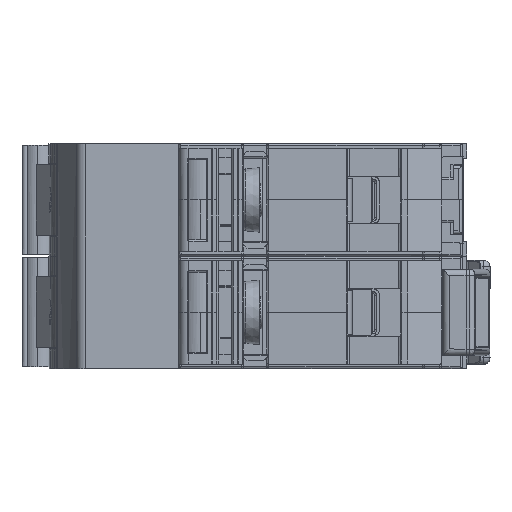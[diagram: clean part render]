
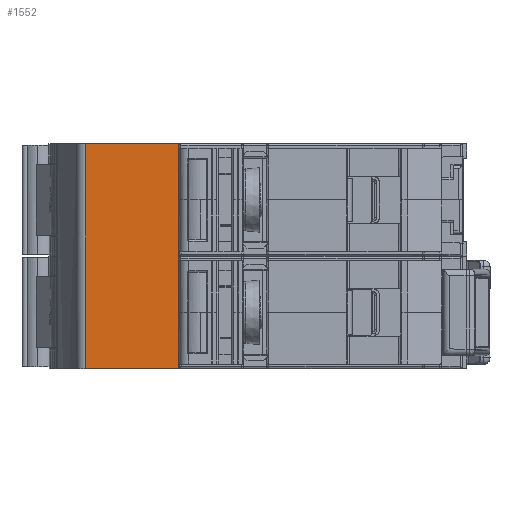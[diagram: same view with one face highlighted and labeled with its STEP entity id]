
A CAD part, left-side view. The second image highlights one B-rep face of the part: STEP entity #1552.
In plain terms, the highlighted planar face has unit normal (-1, 0, 0).
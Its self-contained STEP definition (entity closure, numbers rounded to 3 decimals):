
#1552 = ADVANCED_FACE ( 'NONE', ( #87215 ), #87128, .F. ) ;
#31891 = LINE ( 'NONE', #31892, #79834 ) ;
#31892 = CARTESIAN_POINT ( 'NONE',  ( -29.368, 17.312, 26.277 ) ) ;
#31894 = DIRECTION ( 'NONE',  ( 0., -1., 0. ) ) ;
#32510 = LINE ( 'NONE', #32511, #79985 ) ;
#32511 = CARTESIAN_POINT ( 'NONE',  ( -29.368, 29.148, -7.32 ) ) ;
#32516 = LINE ( 'NONE', #49651, #79961 ) ;
#32520 = DIRECTION ( 'NONE',  ( 0., 0., 1. ) ) ;
#32521 = LINE ( 'NONE', #32523, #79992 ) ;
#32523 = CARTESIAN_POINT ( 'NONE',  ( -29.368, 29.148, -8.775 ) ) ;
#49649 = DIRECTION ( 'NONE',  ( 0., -1., 0. ) ) ;
#49651 = CARTESIAN_POINT ( 'NONE',  ( -29.368, 14.621, 7.297 ) ) ;
#49655 = DIRECTION ( 'NONE',  ( 0., 0., 1. ) ) ;
#52582 = VERTEX_POINT ( 'NONE', #129784 ) ;
#52586 = VERTEX_POINT ( 'NONE', #129786 ) ;
#52636 = VERTEX_POINT ( 'NONE', #129816 ) ;
#52644 = VERTEX_POINT ( 'NONE', #129822 ) ;
#72854 = AXIS2_PLACEMENT_3D ( 'NONE', #87284, #87288, #87292 ) ;
#79834 = VECTOR ( 'NONE', #31894, 1000. ) ;
#79961 = VECTOR ( 'NONE', #49655, 1000. ) ;
#79985 = VECTOR ( 'NONE', #32520, 1000. ) ;
#79992 = VECTOR ( 'NONE', #49649, 1000. ) ;
#87128 = PLANE ( 'NONE',  #72854 ) ;
#87215 = FACE_OUTER_BOUND ( 'NONE', #145144, .T. ) ;
#87284 = CARTESIAN_POINT ( 'NONE',  ( -29.368, 17.312, -7.32 ) ) ;
#87288 = DIRECTION ( 'NONE',  ( 1., 0., 0. ) ) ;
#87292 = DIRECTION ( 'NONE',  ( 0., 0., -1. ) ) ;
#118189 = EDGE_CURVE ( 'NONE', #52582, #52586, #31891, .T. ) ;
#118365 = EDGE_CURVE ( 'NONE', #52636, #52582, #32510, .T. ) ;
#118366 = EDGE_CURVE ( 'NONE', #52636, #52644, #32521, .T. ) ;
#118368 = EDGE_CURVE ( 'NONE', #52644, #52586, #32516, .T. ) ;
#129784 = CARTESIAN_POINT ( 'NONE',  ( -29.368, 29.148, 26.277 ) ) ;
#129786 = CARTESIAN_POINT ( 'NONE',  ( -29.368, 14.621, 26.277 ) ) ;
#129816 = CARTESIAN_POINT ( 'NONE',  ( -29.368, 29.148, -8.775 ) ) ;
#129822 = CARTESIAN_POINT ( 'NONE',  ( -29.368, 14.621, -8.775 ) ) ;
#145144 = EDGE_LOOP ( 'NONE', ( #148816, #148818, #148820, #148822 ) ) ;
#148816 = ORIENTED_EDGE ( 'NONE', *, *, #118189, .F. ) ;
#148818 = ORIENTED_EDGE ( 'NONE', *, *, #118365, .F. ) ;
#148820 = ORIENTED_EDGE ( 'NONE', *, *, #118366, .T. ) ;
#148822 = ORIENTED_EDGE ( 'NONE', *, *, #118368, .T. ) ;
